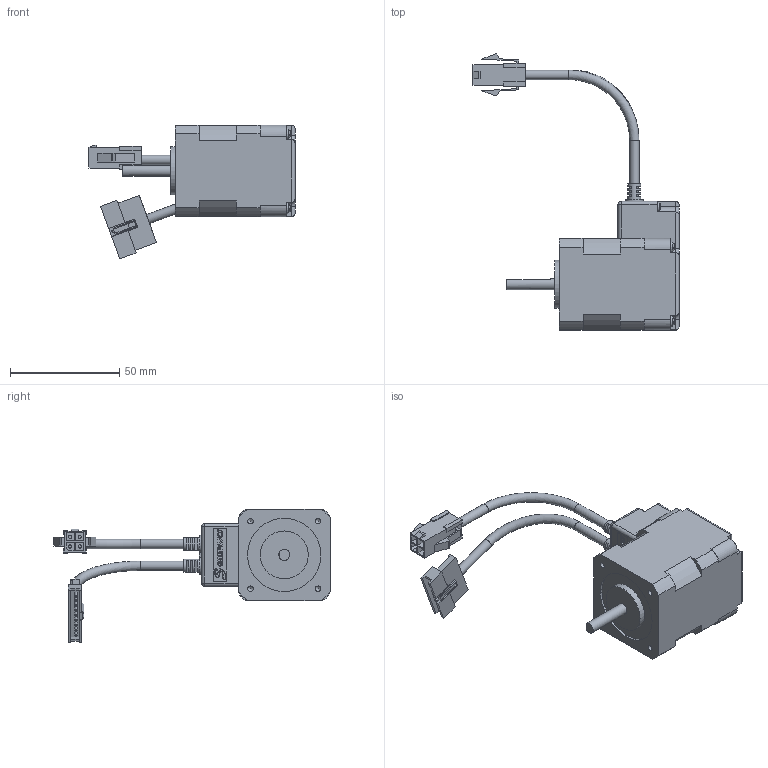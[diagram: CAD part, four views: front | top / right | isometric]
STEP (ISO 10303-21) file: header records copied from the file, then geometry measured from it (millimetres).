
FILE_DESCRIPTION(/* description */ (''),/* implementation_level */ '2;1');
FILE_NAME(/* name */ '\\EMN0D5F01\rp_inventor\RP Mechanical Design\Wiley\Updated Models\eCLM-S172F.stp',/* time_stamp */ '2016-10-27T15:37:24-07:00',/* author */ ('JDB'),/* organization */ ('Parker Hannifin Corp'),/* preprocessor_version */ 'ST-DEVELOPER v15.2',/* originating_system */ 'Autodesk Inventor 2014',/* authorisation */ '');
FILE_SCHEMA (('CONFIG_CONTROL_DESIGN'));
Products named in the file (1): eCLM-S172F_sw
Bounding box: 94.5 x 126.61 x 61.35 mm (x, y, z)
Volume: 89012.1 mm3; surface area: 31086.5 mm2
Topology: 3 solids, 3 shells, 3796 faces, 11089 edges, 7361 vertices
Faces by surface type: plane 3573, cylinder 123, bspline 44, cone 40, sphere 8, torus 8
Full cylindrical faces by diameter (mm): 1 x9, 1.5 x4, 1.6 x4, 2.1 x4, 2.3 x2, 2.5 x4, 4 x5, 4.3 x4, 5 x2, 6 x4, 8 x2, 9.2 x1, 17.5 x1, 22 x1, 33.6 x1
Entity records: 123165 total; most frequent: CARTESIAN_POINT 23049, ORIENTED_EDGE 21960, DIRECTION 18809, EDGE_CURVE 10978, LINE 10377, VECTOR 10377, VERTEX_POINT 7324, AXIS2_PLACEMENT_3D 4216
